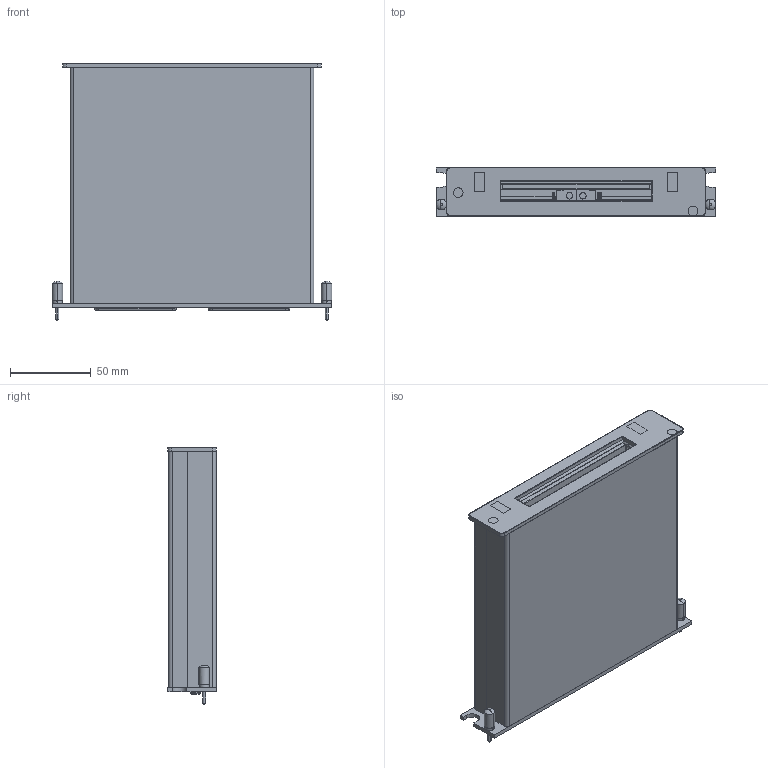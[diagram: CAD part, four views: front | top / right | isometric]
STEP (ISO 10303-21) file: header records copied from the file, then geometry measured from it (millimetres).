
FILE_DESCRIPTION((''),'2;1');
FILE_NAME('CU_TB-137X','2011-08-15T',('jjorden'),(''),'PRO/ENGINEER BY PARAMETRIC TECHNOLOGY CORPORATION, 2010230','PRO/ENGINEER BY PARAMETRIC TECHNOLOGY CORPORATION, 2010230','');
FILE_SCHEMA(('CONFIG_CONTROL_DESIGN'));
Products named in the file (1): CU_TB-137X
Bounding box: 173.53 x 30.18 x 159.73 mm (x, y, z)
Volume: 163597.6 mm3; surface area: 148212.8 mm2
Topology: 5 solids, 5 shells, 1885 faces, 5243 edges, 3387 vertices
Faces by surface type: plane 1318, cylinder 420, bspline 108, cone 26, sphere 12, extrusion 1
Entity records: 62271 total; most frequent: CARTESIAN_POINT 13639, ORIENTED_EDGE 10358, DIRECTION 9606, EDGE_CURVE 5179, VECTOR 4104, LINE 4103, VERTEX_POINT 3444, AXIS2_PLACEMENT_3D 2751
